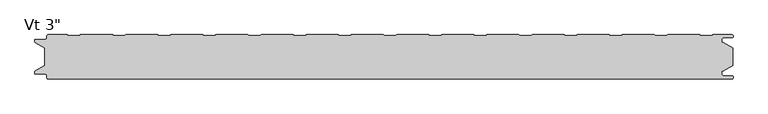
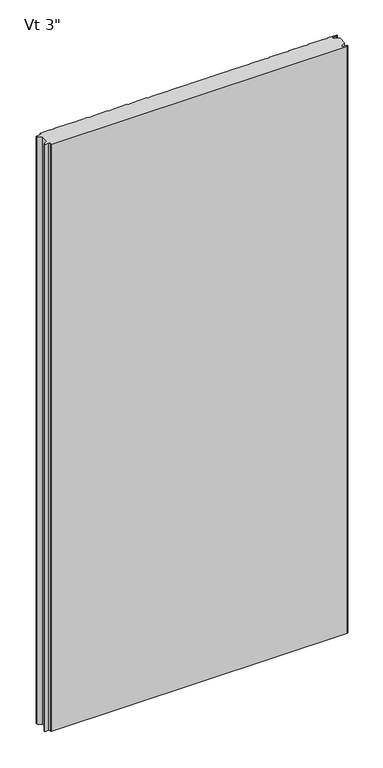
"""IFC4 building model written with IfcOpenShell, lengths in millimetres: plate geometry."""

from ifc_helpers import new_model, si_unit, frame, origin, place, context, project, spatial, polyline, circle_curve, source, transform, mapped, element, save
from ifc_brep_helpers import plane_surface, cylinder_surface, revolved_surface, advanced_brep


def plate_f636fb03(model_context):
    return source(origin(), model_context, "Body", "AdvancedBrep", [
        advanced_brep(
        [(-572.4125501, -73.2227194, 2400.0), (-570.4352761, -75.1999935, 2400.0), (574.5475652, -75.2, 2400.0), (576.5248337, -73.2227315, 2400.0), (576.5248337, -72.1806329, 2400.0), (574.5475652, -70.2033643, 2400.0), (560.3591802, -70.2033643, 2400.0), (557.7713036, -67.6154878, 2400.0), (557.7713036, -63.2950697, 2400.0), (557.1628365, -62.7060762, 2400.0), (554.7857432, -62.7060762, 2400.0), (554.7857432, -61.7066023, 2400.0), (560.2280123, -61.7066023, 2400.0), (576.2625, -52.4490865, 2400.0), (576.2625, -23.7509179, 2400.0), (560.2280123, -14.4934021, 2400.0), (554.7857432, -14.4934021, 2400.0), (554.7857432, -13.4939282, 2400.0), (557.1628365, -13.4939282, 2400.0), (557.7713036, -12.9049347, 2400.0), (557.7713036, -8.5845165, 2400.0), (560.3591802, -5.99664, 2400.0), (574.5475652, -5.99664, 2400.0), (576.5248337, -4.0193715, 2400.0), (576.5248337, -2.9772729, 2400.0), (574.5475652, -1.0000044, 2400.0), (542.3760351, -1.0000044, 2400.0), (541.3035142, -2.1911595, 2400.0), (521.5205195, -2.1911595, 2400.0), (520.4479947, -1.0, 2400.0), (466.7534187, -1.0, 2400.0), (465.6808939, -2.1911595, 2400.0), (445.8978992, -2.1911595, 2400.0), (444.8253744, -1.0, 2400.0), (391.1307985, -1.0, 2400.0), (390.0582736, -2.1911595, 2400.0), (370.275279, -2.1911595, 2400.0), (369.2027541, -1.0, 2400.0), (315.5081782, -1.0, 2400.0), (314.4356534, -2.1911595, 2400.0), (294.6526587, -2.1911595, 2400.0), (293.5801339, -1.0, 2400.0), (239.885558, -1.0, 2400.0), (238.8130331, -2.1911595, 2400.0), (219.0300384, -2.1911595, 2400.0), (217.9575136, -1.0, 2400.0), (164.2629377, -1.0, 2400.0), (163.1904129, -2.1911595, 2400.0), (143.4074182, -2.1911595, 2400.0), (142.3348933, -1.0, 2400.0), (88.6403174, -1.0, 2400.0), (87.5677926, -2.1911595, 2400.0), (67.7847979, -2.1911595, 2400.0), (66.7122731, -1.0, 2400.0), (13.0176972, -1.0, 2400.0), (11.9451723, -2.1911595, 2400.0), (-7.8378224, -2.1911595, 2400.0), (-8.9103472, -1.0, 2400.0), (-62.6049231, -1.0, 2400.0), (-63.6774479, -2.1911595, 2400.0), (-83.4604426, -2.1911595, 2400.0), (-84.5329675, -1.0, 2400.0), (-138.2275434, -1.0, 2400.0), (-139.3000682, -2.1911595, 2400.0), (-159.0830629, -2.1911595, 2400.0), (-160.1555877, -1.0, 2400.0), (-213.8501636, -1.0, 2400.0), (-214.9226885, -2.1911595, 2400.0), (-234.7056831, -2.1911595, 2400.0), (-235.778208, -1.0, 2400.0), (-289.4727839, -1.0, 2400.0), (-290.5453087, -2.1911595, 2400.0), (-310.3283034, -2.1911595, 2400.0), (-311.4008282, -1.0, 2400.0), (-365.0954042, -1.0, 2400.0), (-366.167929, -2.1911595, 2400.0), (-385.9509237, -2.1911595, 2400.0), (-387.0234485, -1.0, 2400.0), (-440.7180244, -1.0, 2400.0), (-441.7905493, -2.1911595, 2400.0), (-461.5735439, -2.1911595, 2400.0), (-462.6460688, -1.0, 2400.0), (-516.3406447, -1.0, 2400.0), (-517.4131695, -2.1911595, 2400.0), (-537.1961642, -2.1911595, 2400.0), (-538.268689, -1.0000109, 2400.0), (-570.4352761, -1.0000109, 2400.0), (-572.4125501, -2.9772849, 2400.0), (-572.4125501, -5.2691749, 2400.0), (-576.3898173, -9.246442, 2400.0), (-591.9862417, -9.246442, 2400.0), (-592.5741186, -9.8343189, 2400.0), (-592.5741186, -12.9058679, 2400.0), (-591.986242, -13.4937446, 2400.0), (-589.6312064, -13.4937446, 2400.0), (-589.6312064, -14.4937446, 2400.0), (-591.9207851, -14.4937446, 2400.0), (-576.2625, -23.7509179, 2400.0), (-576.2625, -52.4490865, 2400.0), (-591.9207851, -61.7062598, 2400.0), (-589.6312064, -61.7062598, 2400.0), (-589.6312064, -62.7062598, 2400.0), (-591.986242, -62.7062598, 2400.0), (-592.5741186, -63.2941365, 2400.0), (-592.5741186, -66.3656854, 2400.0), (-591.9862417, -66.9535623, 2400.0), (-576.3898173, -66.9535623, 2400.0), (-572.4125501, -70.9308295, 2400.0), (-572.4125501, -73.2227194, 0.0), (-572.4125501, -70.9308295, 0.0), (-576.3898173, -66.9535623, 0.0), (-591.9862417, -66.9535623, 0.0), (-592.5741186, -66.3656854, 0.0), (-592.5741186, -63.2941365, 0.0), (-591.986242, -62.7062598, 0.0), (-589.6312064, -62.7062598, 0.0), (-589.6312064, -61.7062598, 0.0), (-591.9207851, -61.7062598, 0.0), (-576.2625, -52.4490865, 0.0), (-576.2625, -23.7509179, 0.0), (-591.9207851, -14.4937446, 0.0), (-589.6312064, -14.4937446, 0.0), (-589.6312064, -13.4937446, 0.0), (-591.986242, -13.4937446, 0.0), (-592.5741186, -12.9058679, 0.0), (-592.5741186, -9.8343189, 0.0), (-591.9862417, -9.246442, 0.0), (-576.3898173, -9.246442, 0.0), (-572.4125501, -5.2691749, 0.0), (-572.4125501, -2.9772849, 0.0), (-570.4352761, -1.0000109, 0.0), (-538.268689, -1.0000109, 0.0), (-537.1961642, -2.1911595, 0.0), (-517.4131695, -2.1911595, 0.0), (-516.3406447, -1.0, 0.0), (-462.6460688, -1.0, 0.0), (-461.5735439, -2.1911595, 0.0), (-441.7905493, -2.1911595, 0.0), (-440.7180244, -1.0, 0.0), (-387.0234485, -1.0, 0.0), (-385.9509237, -2.1911595, 0.0), (-366.167929, -2.1911595, 0.0), (-365.0954042, -1.0, 0.0), (-311.4008282, -1.0, 0.0), (-310.3283034, -2.1911595, 0.0), (-290.5453087, -2.1911595, 0.0), (-289.4727839, -1.0, 0.0), (-235.778208, -1.0, 0.0), (-234.7056831, -2.1911595, 0.0), (-214.9226885, -2.1911595, 0.0), (-213.8501636, -1.0, 0.0), (-160.1555877, -1.0, 0.0), (-159.0830629, -2.1911595, 0.0), (-139.3000682, -2.1911595, 0.0), (-138.2275434, -1.0, 0.0), (-84.5329675, -1.0, 0.0), (-83.4604426, -2.1911595, 0.0), (-63.6774479, -2.1911595, 0.0), (-62.6049231, -1.0, 0.0), (-8.9103472, -1.0, 0.0), (-7.8378224, -2.1911595, 0.0), (11.9451723, -2.1911595, 0.0), (13.0176972, -1.0, 0.0), (66.7122731, -1.0, 0.0), (67.7847979, -2.1911595, 0.0), (87.5677926, -2.1911595, 0.0), (88.6403174, -1.0, 0.0), (142.3348933, -1.0, 0.0), (143.4074182, -2.1911595, 0.0), (163.1904129, -2.1911595, 0.0), (164.2629377, -1.0, 0.0), (217.9575136, -1.0, 0.0), (219.0300384, -2.1911595, 0.0), (238.8130331, -2.1911595, 0.0), (239.885558, -1.0, 0.0), (293.5801339, -1.0, 0.0), (294.6526587, -2.1911595, 0.0), (314.4356534, -2.1911595, 0.0), (315.5081782, -1.0, 0.0), (369.2027541, -1.0, 0.0), (370.275279, -2.1911595, 0.0), (390.0582736, -2.1911595, 0.0), (391.1307985, -1.0, 0.0), (444.8253744, -1.0, 0.0), (445.8978992, -2.1911595, 0.0), (465.6808939, -2.1911595, 0.0), (466.7534187, -1.0, 0.0), (520.4479947, -1.0, 0.0), (521.5205195, -2.1911595, 0.0), (541.3035142, -2.1911595, 0.0), (542.3760351, -1.0000044, 0.0), (574.5475652, -1.0000044, 0.0), (576.5248337, -2.9772729, 0.0), (576.5248337, -4.0193715, 0.0), (574.5475652, -5.99664, 0.0), (560.3591802, -5.99664, 0.0), (557.7713036, -8.5845165, 0.0), (557.7713036, -12.9049347, 0.0), (557.1628365, -13.4939282, 0.0), (554.7857432, -13.4939282, 0.0), (554.7857432, -14.4934021, 0.0), (560.2280123, -14.4934021, 0.0), (576.2625, -23.7509179, 0.0), (576.2625, -52.4490865, 0.0), (560.2280123, -61.7066023, 0.0), (554.7857432, -61.7066023, 0.0), (554.7857432, -62.7060762, 0.0), (557.1628365, -62.7060762, 0.0), (557.7713036, -63.2950697, 0.0), (557.7713036, -67.6154878, 0.0), (560.3591802, -70.2033643, 0.0), (574.5475652, -70.2033643, 0.0), (576.5248337, -72.1806329, 0.0), (576.5248337, -73.2227315, 0.0), (574.5475652, -75.2, 0.0), (-570.4352761, -75.2, 0.0)],
        [
            (0, 1, circle_curve(frame((-570.4352761, -73.2227194, 2400.0), z_axis=(0.0, 0.0, 1.0), x_axis=(-1.0, 0.0, 0.0)), 1.977274)),
            (1, 2),
            (2, 3, circle_curve(frame((574.5475652, -73.2227315, 2400.0), z_axis=(0.0, 0.0, 1.0), x_axis=(-1.0, 0.0, 0.0)), 1.9772685)),
            (3, 4),
            (4, 5, circle_curve(frame((574.5475652, -72.1806329, 2400.0), z_axis=(0.0, 0.0, 1.0), x_axis=(-1.0, 0.0, 0.0)), 1.9772685)),
            (5, 6),
            (6, 7, circle_curve(frame((560.3591802, -67.6154878, 2400.0), z_axis=(0.0, 0.0, -1.0), x_axis=(-1.0, 0.0, 0.0)), 2.5878765)),
            (7, 8),
            (8, 9, circle_curve(frame((557.1819985, -63.2950697, 2400.0), z_axis=(0.0, 0.0, 1.0), x_axis=(-1.0, 0.0, 0.0)), 0.5893051)),
            (9, 10),
            (10, 11),
            (11, 12),
            (12, 13),
            (13, 14),
            (14, 15),
            (15, 16),
            (16, 17),
            (17, 18),
            (18, 19, circle_curve(frame((557.1819985, -12.9049347, 2400.0), z_axis=(0.0, 0.0, 1.0), x_axis=(0.0, 1.0, 0.0)), 0.5893051)),
            (19, 20),
            (20, 21, circle_curve(frame((560.3591802, -8.5845165, 2400.0), z_axis=(0.0, 0.0, -1.0), x_axis=(0.0, 1.0, 0.0)), 2.5878765)),
            (21, 22),
            (22, 23, circle_curve(frame((574.5475652, -4.0193715, 2400.0), z_axis=(0.0, 0.0, 1.0), x_axis=(0.0, 1.0, 0.0)), 1.9772685)),
            (23, 24),
            (24, 25, circle_curve(frame((574.5475652, -2.9772729, 2400.0), z_axis=(0.0, 0.0, 1.0), x_axis=(0.0, 1.0, 0.0)), 1.9772685)),
            (25, 26),
            (26, 27),
            (27, 28),
            (28, 29),
            (29, 30),
            (30, 31),
            (31, 32),
            (32, 33),
            (33, 34),
            (34, 35),
            (35, 36),
            (36, 37),
            (37, 38),
            (38, 39),
            (39, 40),
            (40, 41),
            (41, 42),
            (42, 43),
            (43, 44),
            (44, 45),
            (45, 46),
            (46, 47),
            (47, 48),
            (48, 49),
            (49, 50),
            (50, 51),
            (51, 52),
            (52, 53),
            (53, 54),
            (54, 55),
            (55, 56),
            (56, 57),
            (57, 58),
            (58, 59),
            (59, 60),
            (60, 61),
            (61, 62),
            (62, 63),
            (63, 64),
            (64, 65),
            (65, 66),
            (66, 67),
            (67, 68),
            (68, 69),
            (69, 70),
            (70, 71),
            (71, 72),
            (72, 73),
            (73, 74),
            (74, 75),
            (75, 76),
            (76, 77),
            (77, 78),
            (78, 79),
            (79, 80),
            (80, 81),
            (81, 82),
            (82, 83),
            (83, 84),
            (84, 85),
            (85, 86),
            (86, 87, circle_curve(frame((-570.4352761, -2.9772849, 2400.0), z_axis=(0.0, 0.0, 1.0), x_axis=(0.0, 1.0, 0.0)), 1.977274)),
            (87, 88),
            (88, 89, circle_curve(frame((-576.3898173, -5.2691749, 2400.0), z_axis=(0.0, 0.0, -1.0), x_axis=(0.0, 1.0, 0.0)), 3.9772671)),
            (89, 90),
            (90, 91, circle_curve(frame((-591.9862417, -9.8343189, 2400.0), z_axis=(0.0, 0.0, 1.0), x_axis=(0.0, 1.0, 0.0)), 0.5878769)),
            (91, 92),
            (92, 93, circle_curve(frame((-591.986242, -12.9058679, 2400.0), z_axis=(0.0, 0.0, 1.0), x_axis=(0.0, 1.0, 0.0)), 0.5878766)),
            (93, 94),
            (94, 95),
            (95, 96),
            (96, 97),
            (97, 98),
            (98, 99),
            (99, 100),
            (100, 101),
            (101, 102),
            (102, 103, circle_curve(frame((-591.986242, -63.2941365, 2400.0), z_axis=(0.0, 0.0, 1.0), x_axis=(-1.0, 0.0, 0.0)), 0.5878766)),
            (103, 104),
            (104, 105, circle_curve(frame((-591.9862417, -66.3656854, 2400.0), z_axis=(0.0, 0.0, 1.0), x_axis=(-1.0, 0.0, 0.0)), 0.5878769)),
            (105, 106),
            (106, 107, circle_curve(frame((-576.3898173, -70.9308295, 2400.0), z_axis=(0.0, 0.0, -1.0), x_axis=(-1.0, 0.0, 0.0)), 3.9772671)),
            (107, 0),
            (108, 109),
            (109, 110, circle_curve(frame((-576.3898173, -70.9308295, 0.0), z_axis=(0.0, 0.0, 1.0), x_axis=(-1.0, 0.0, 0.0)), 3.9772671)),
            (110, 111),
            (111, 112, circle_curve(frame((-591.9862417, -66.3656854, 0.0), z_axis=(0.0, 0.0, -1.0), x_axis=(-1.0, 0.0, 0.0)), 0.5878769)),
            (112, 113),
            (113, 114, circle_curve(frame((-591.986242, -63.2941365, 0.0), z_axis=(0.0, 0.0, -1.0), x_axis=(-1.0, 0.0, 0.0)), 0.5878766)),
            (114, 115),
            (115, 116),
            (116, 117),
            (117, 118),
            (118, 119),
            (119, 120),
            (120, 121),
            (121, 122),
            (122, 123),
            (123, 124, circle_curve(frame((-591.986242, -12.9058679, 0.0), z_axis=(0.0, 0.0, -1.0), x_axis=(0.0, 1.0, 0.0)), 0.5878766)),
            (124, 125),
            (125, 126, circle_curve(frame((-591.9862417, -9.8343189, 0.0), z_axis=(0.0, 0.0, -1.0), x_axis=(0.0, 1.0, 0.0)), 0.5878769)),
            (126, 127),
            (127, 128, circle_curve(frame((-576.3898173, -5.2691749, 0.0), z_axis=(0.0, 0.0, 1.0), x_axis=(0.0, 1.0, 0.0)), 3.9772671)),
            (128, 129),
            (129, 130, circle_curve(frame((-570.4352761, -2.9772849, 0.0), z_axis=(0.0, 0.0, -1.0), x_axis=(0.0, 1.0, 0.0)), 1.977274)),
            (130, 131),
            (131, 132),
            (132, 133),
            (133, 134),
            (134, 135),
            (135, 136),
            (136, 137),
            (137, 138),
            (138, 139),
            (139, 140),
            (140, 141),
            (141, 142),
            (142, 143),
            (143, 144),
            (144, 145),
            (145, 146),
            (146, 147),
            (147, 148),
            (148, 149),
            (149, 150),
            (150, 151),
            (151, 152),
            (152, 153),
            (153, 154),
            (154, 155),
            (155, 156),
            (156, 157),
            (157, 158),
            (158, 159),
            (159, 160),
            (160, 161),
            (161, 162),
            (162, 163),
            (163, 164),
            (164, 165),
            (165, 166),
            (166, 167),
            (167, 168),
            (168, 169),
            (169, 170),
            (170, 171),
            (171, 172),
            (172, 173),
            (173, 174),
            (174, 175),
            (175, 176),
            (176, 177),
            (177, 178),
            (178, 179),
            (179, 180),
            (180, 181),
            (181, 182),
            (182, 183),
            (183, 184),
            (184, 185),
            (185, 186),
            (186, 187),
            (187, 188),
            (188, 189),
            (189, 190),
            (190, 191),
            (191, 192, circle_curve(frame((574.5475652, -2.9772729, 0.0), z_axis=(0.0, 0.0, -1.0), x_axis=(0.0, 1.0, 0.0)), 1.9772685)),
            (192, 193),
            (193, 194, circle_curve(frame((574.5475652, -4.0193715, 0.0), z_axis=(0.0, 0.0, -1.0), x_axis=(0.0, 1.0, 0.0)), 1.9772685)),
            (194, 195),
            (195, 196, circle_curve(frame((560.3591802, -8.5845165, 0.0), z_axis=(0.0, 0.0, 1.0), x_axis=(0.0, 1.0, 0.0)), 2.5878765)),
            (196, 197),
            (197, 198, circle_curve(frame((557.1819985, -12.9049347, 0.0), z_axis=(0.0, 0.0, -1.0), x_axis=(0.0, 1.0, 0.0)), 0.5893051)),
            (198, 199),
            (199, 200),
            (200, 201),
            (201, 202),
            (202, 203),
            (203, 204),
            (204, 205),
            (205, 206),
            (206, 207),
            (207, 208, circle_curve(frame((557.1819985, -63.2950697, 0.0), z_axis=(0.0, 0.0, -1.0), x_axis=(-1.0, 0.0, 0.0)), 0.5893051)),
            (208, 209),
            (209, 210, circle_curve(frame((560.3591802, -67.6154878, 0.0), z_axis=(0.0, 0.0, 1.0), x_axis=(-1.0, 0.0, 0.0)), 2.5878765)),
            (210, 211),
            (211, 212, circle_curve(frame((574.5475652, -72.1806329, 0.0), z_axis=(0.0, 0.0, -1.0), x_axis=(-1.0, 0.0, 0.0)), 1.9772685)),
            (212, 213),
            (213, 214, circle_curve(frame((574.5475652, -73.2227315, 0.0), z_axis=(0.0, 0.0, -1.0), x_axis=(-1.0, 0.0, 0.0)), 1.9772685)),
            (214, 215),
            (215, 108, circle_curve(frame((-570.4352761, -73.2227194, 0.0), z_axis=(0.0, 0.0, -1.0), x_axis=(-1.0, 0.0, 0.0)), 1.977274)),
            (97, 119),
            (118, 98),
            (13, 203),
            (202, 14),
            (27, 189),
            (188, 28),
            (26, 190),
            (25, 191),
            (24, 192),
            (23, 193),
            (22, 194),
            (21, 195),
            (20, 196),
            (19, 197),
            (18, 198),
            (17, 199),
            (16, 200),
            (15, 201),
            (96, 120),
            (95, 121),
            (94, 122),
            (93, 123),
            (92, 124),
            (91, 125),
            (90, 126),
            (89, 127),
            (88, 128),
            (87, 129),
            (86, 130),
            (85, 131),
            (84, 132),
            (83, 133),
            (82, 134),
            (81, 135),
            (80, 136),
            (79, 137),
            (78, 138),
            (77, 139),
            (76, 140),
            (75, 141),
            (74, 142),
            (73, 143),
            (72, 144),
            (71, 145),
            (70, 146),
            (69, 147),
            (68, 148),
            (67, 149),
            (66, 150),
            (65, 151),
            (64, 152),
            (63, 153),
            (62, 154),
            (61, 155),
            (60, 156),
            (59, 157),
            (58, 158),
            (57, 159),
            (56, 160),
            (55, 161),
            (54, 162),
            (53, 163),
            (52, 164),
            (51, 165),
            (50, 166),
            (49, 167),
            (48, 168),
            (47, 169),
            (46, 170),
            (45, 171),
            (44, 172),
            (43, 173),
            (42, 174),
            (41, 175),
            (40, 176),
            (39, 177),
            (38, 178),
            (37, 179),
            (36, 180),
            (35, 181),
            (34, 182),
            (33, 183),
            (32, 184),
            (31, 185),
            (30, 186),
            (29, 187),
            (107, 109),
            (108, 0),
            (106, 110),
            (105, 111),
            (104, 112),
            (103, 113),
            (102, 114),
            (101, 115),
            (100, 116),
            (99, 117),
            (12, 204),
            (11, 205),
            (10, 206),
            (9, 207),
            (8, 208),
            (7, 209),
            (6, 210),
            (5, 211),
            (4, 212),
            (3, 213),
            (2, 214),
            (1, 215),
        ],
        [
            plane_surface(frame((0.0, -75.2, 2400.0), z_axis=(0.0, 0.0, 1.0), x_axis=(0.0, -1.0, 0.0))),
            plane_surface(frame((0.0, -75.2, 0.0), z_axis=(0.0, 0.0, -1.0), x_axis=(0.0, -1.0, 0.0))),
            plane_surface(frame((-576.2625, -52.4490865, 2400.0), z_axis=(-1.0, 0.0, 0.0), x_axis=(0.0, 0.0, -1.0))),
            plane_surface(frame((576.2625, -23.7509179, 2400.0), z_axis=(1.0, 0.0, 0.0), x_axis=(0.0, 0.0, -1.0))),
            plane_surface(frame((521.5205195, -2.1911595, 2400.0), z_axis=(0.0, 1.0, 0.0), x_axis=(0.0, 0.0, -1.0))),
            plane_surface(frame((541.3035142, -2.1911595, 2400.0), z_axis=(-0.7431448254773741, 0.6691306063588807, 0.0), x_axis=(0.0, 0.0, -1.0))),
            plane_surface(frame((542.3760351, -1.0000044, 2400.0), z_axis=(0.0, 1.0, 0.0), x_axis=(0.0, 0.0, -1.0))),
            cylinder_surface(frame((574.5475652, -2.9772729, 2400.0), z_axis=(0.0, 0.0, 1.0), x_axis=(0.0, 1.0, 0.0)), 1.9772685),
            plane_surface(frame((576.5248337, -2.9772729, 2400.0), z_axis=(1.0, 0.0, 0.0), x_axis=(0.0, 0.0, -1.0))),
            cylinder_surface(frame((574.5475652, -4.0193715, 2400.0), z_axis=(0.0, 0.0, 1.0), x_axis=(0.0, 1.0, 0.0)), 1.9772685),
            plane_surface(frame((574.5475652, -5.99664, 2400.0), z_axis=(0.0, -1.0, 0.0), x_axis=(0.0, 0.0, -1.0))),
            revolved_surface(polyline([(560.3591802, -5.996639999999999, 0.0), (560.3591802, -5.996639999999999, 2400.0)]), (560.3591802, -8.5845165, 2400.0), (0.0, 0.0, -1.0)),
            plane_surface(frame((557.7713036, -8.5845165, 2400.0), z_axis=(1.0, 0.0, 0.0), x_axis=(0.0, 0.0, -1.0))),
            cylinder_surface(frame((557.1819985, -12.9049347, 2400.0), z_axis=(0.0, 0.0, 1.0), x_axis=(0.0, 1.0, 0.0)), 0.5893051),
            plane_surface(frame((557.1628365, -13.4939282, 2400.0), z_axis=(0.0, -1.0, 0.0), x_axis=(0.0, 0.0, -1.0))),
            plane_surface(frame((554.7857432, -13.4939282, 2400.0), z_axis=(1.0, 0.0, 0.0), x_axis=(0.0, 0.0, -1.0))),
            plane_surface(frame((554.7857432, -14.4934021, 2400.0), z_axis=(0.0, 1.0, 0.0), x_axis=(0.0, 0.0, -1.0))),
            plane_surface(frame((560.2280123, -14.4934021, 2400.0), z_axis=(0.5000000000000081, 0.866025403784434, 0.0), x_axis=(0.0, 0.0, -1.0))),
            plane_surface(frame((-576.2625, -23.7509179, 2400.0), z_axis=(-0.5089147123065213, -0.860816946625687, 0.0), x_axis=(0.0, 0.0, -1.0))),
            plane_surface(frame((-591.9207851, -14.4937446, 2400.0), z_axis=(0.0, 1.0, 0.0), x_axis=(0.0, 0.0, -1.0))),
            plane_surface(frame((-589.6312064, -14.4937446, 2400.0), z_axis=(-1.0, 0.0, 0.0), x_axis=(0.0, 0.0, -1.0))),
            plane_surface(frame((-589.6312064, -13.4937446, 2400.0), z_axis=(0.0, -1.0, 0.0), x_axis=(0.0, 0.0, -1.0))),
            cylinder_surface(frame((-591.986242, -12.9058679, 2400.0), z_axis=(0.0, 0.0, 1.0), x_axis=(0.0, 1.0, 0.0)), 0.5878766),
            plane_surface(frame((-592.5741186, -12.9058679, 2400.0), z_axis=(-1.0, 0.0, 0.0), x_axis=(0.0, 0.0, -1.0))),
            cylinder_surface(frame((-591.9862417, -9.8343189, 2400.0), z_axis=(0.0, 0.0, 1.0), x_axis=(0.0, 1.0, 0.0)), 0.5878769),
            plane_surface(frame((-591.9862417, -9.246442, 2400.0), z_axis=(0.0, 1.0, 0.0), x_axis=(0.0, 0.0, -1.0))),
            revolved_surface(polyline([(-576.3898173, -1.2919078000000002, 0.0), (-576.3898173, -1.2919078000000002, 2400.0)]), (-576.3898173, -5.2691749, 2400.0), (0.0, 0.0, -1.0)),
            plane_surface(frame((-572.4125501, -5.2691749, 2400.0), z_axis=(-1.0, 0.0, 0.0), x_axis=(0.0, 0.0, -1.0))),
            cylinder_surface(frame((-570.4352761, -2.9772849, 2400.0), z_axis=(0.0, 0.0, 1.0), x_axis=(0.0, 1.0, 0.0)), 1.977274),
            plane_surface(frame((-570.4352761, -1.0000109, 2400.0), z_axis=(0.0, 1.0, 0.0), x_axis=(0.0, 0.0, -1.0))),
            plane_surface(frame((-538.268689, -1.0000109, 2400.0), z_axis=(0.7431417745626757, 0.669133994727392, 0.0), x_axis=(0.0, 0.0, -1.0))),
            plane_surface(frame((-537.1961642, -2.1911595, 2400.0), z_axis=(0.0, 1.0, 0.0), x_axis=(0.0, 0.0, -1.0))),
            plane_surface(frame((-517.4131695, -2.1911595, 2400.0), z_axis=(-0.7431448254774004, 0.6691306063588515, 0.0), x_axis=(0.0, 0.0, -1.0))),
            plane_surface(frame((-516.3406447, -1.0, 2400.0), z_axis=(0.0, 1.0, 0.0), x_axis=(0.0, 0.0, -1.0))),
            plane_surface(frame((-462.6460688, -1.0, 2400.0), z_axis=(0.7431448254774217, 0.6691306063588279, 0.0), x_axis=(0.0, 0.0, -1.0))),
            plane_surface(frame((-461.5735439, -2.1911595, 2400.0), z_axis=(0.0, 1.0, 0.0), x_axis=(0.0, 0.0, -1.0))),
            plane_surface(frame((-441.7905493, -2.1911595, 2400.0), z_axis=(-0.7431448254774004, 0.6691306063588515, 0.0), x_axis=(0.0, 0.0, -1.0))),
            plane_surface(frame((-440.7180244, -1.0, 2400.0), z_axis=(0.0, 1.0, 0.0), x_axis=(0.0, 0.0, -1.0))),
            plane_surface(frame((-387.0234485, -1.0, 2400.0), z_axis=(0.7431448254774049, 0.6691306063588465, 0.0), x_axis=(0.0, 0.0, -1.0))),
            plane_surface(frame((-385.9509237, -2.1911595, 2400.0), z_axis=(0.0, 1.0, 0.0), x_axis=(0.0, 0.0, -1.0))),
            plane_surface(frame((-366.167929, -2.1911595, 2400.0), z_axis=(-0.7431448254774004, 0.6691306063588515, 0.0), x_axis=(0.0, 0.0, -1.0))),
            plane_surface(frame((-365.0954042, -1.0, 2400.0), z_axis=(0.0, 1.0, 0.0), x_axis=(0.0, 0.0, -1.0))),
            plane_surface(frame((-311.4008282, -1.0, 2400.0), z_axis=(0.7431448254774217, 0.6691306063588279, 0.0), x_axis=(0.0, 0.0, -1.0))),
            plane_surface(frame((-310.3283034, -2.1911595, 2400.0), z_axis=(0.0, 1.0, 0.0), x_axis=(0.0, 0.0, -1.0))),
            plane_surface(frame((-290.5453087, -2.1911595, 2400.0), z_axis=(-0.7431448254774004, 0.6691306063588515, 0.0), x_axis=(0.0, 0.0, -1.0))),
            plane_surface(frame((-289.4727839, -1.0, 2400.0), z_axis=(0.0, 1.0, 0.0), x_axis=(0.0, 0.0, -1.0))),
            plane_surface(frame((-235.778208, -1.0, 2400.0), z_axis=(0.7431448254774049, 0.6691306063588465, 0.0), x_axis=(0.0, 0.0, -1.0))),
            plane_surface(frame((-234.7056831, -2.1911595, 2400.0), z_axis=(0.0, 1.0, 0.0), x_axis=(0.0, 0.0, -1.0))),
            plane_surface(frame((-214.9226885, -2.1911595, 2400.0), z_axis=(-0.7431448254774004, 0.6691306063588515, 0.0), x_axis=(0.0, 0.0, -1.0))),
            plane_surface(frame((-213.8501636, -1.0, 2400.0), z_axis=(0.0, 1.0, 0.0), x_axis=(0.0, 0.0, -1.0))),
            plane_surface(frame((-160.1555877, -1.0, 2400.0), z_axis=(0.7431448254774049, 0.6691306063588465, 0.0), x_axis=(0.0, 0.0, -1.0))),
            plane_surface(frame((-159.0830629, -2.1911595, 2400.0), z_axis=(0.0, 1.0, 0.0), x_axis=(0.0, 0.0, -1.0))),
            plane_surface(frame((-139.3000682, -2.1911595, 2400.0), z_axis=(-0.7431448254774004, 0.6691306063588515, 0.0), x_axis=(0.0, 0.0, -1.0))),
            plane_surface(frame((-138.2275434, -1.0, 2400.0), z_axis=(0.0, 1.0, 0.0), x_axis=(0.0, 0.0, -1.0))),
            plane_surface(frame((-84.5329675, -1.0, 2400.0), z_axis=(0.7431448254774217, 0.6691306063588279, 0.0), x_axis=(0.0, 0.0, -1.0))),
            plane_surface(frame((-83.4604426, -2.1911595, 2400.0), z_axis=(0.0, 1.0, 0.0), x_axis=(0.0, 0.0, -1.0))),
            plane_surface(frame((-63.6774479, -2.1911595, 2400.0), z_axis=(-0.7431448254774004, 0.6691306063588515, 0.0), x_axis=(0.0, 0.0, -1.0))),
            plane_surface(frame((-62.6049231, -1.0, 2400.0), z_axis=(0.0, 1.0, 0.0), x_axis=(0.0, 0.0, -1.0))),
            plane_surface(frame((-8.9103472, -1.0, 2400.0), z_axis=(0.7431448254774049, 0.6691306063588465, 0.0), x_axis=(0.0, 0.0, -1.0))),
            plane_surface(frame((-7.8378224, -2.1911595, 2400.0), z_axis=(0.0, 1.0, 0.0), x_axis=(0.0, 0.0, -1.0))),
            plane_surface(frame((11.9451723, -2.1911595, 2400.0), z_axis=(-0.7431448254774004, 0.6691306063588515, 0.0), x_axis=(0.0, 0.0, -1.0))),
            plane_surface(frame((13.0176972, -1.0, 2400.0), z_axis=(0.0, 1.0, 0.0), x_axis=(0.0, 0.0, -1.0))),
            plane_surface(frame((66.7122731, -1.0, 2400.0), z_axis=(0.7431448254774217, 0.6691306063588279, 0.0), x_axis=(0.0, 0.0, -1.0))),
            plane_surface(frame((67.7847979, -2.1911595, 2400.0), z_axis=(0.0, 1.0, 0.0), x_axis=(0.0, 0.0, -1.0))),
            plane_surface(frame((87.5677926, -2.1911595, 2400.0), z_axis=(-0.7431448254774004, 0.6691306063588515, 0.0), x_axis=(0.0, 0.0, -1.0))),
            plane_surface(frame((88.6403174, -1.0, 2400.0), z_axis=(0.0, 1.0, 0.0), x_axis=(0.0, 0.0, -1.0))),
            plane_surface(frame((142.3348933, -1.0, 2400.0), z_axis=(0.7431448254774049, 0.6691306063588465, 0.0), x_axis=(0.0, 0.0, -1.0))),
            plane_surface(frame((143.4074182, -2.1911595, 2400.0), z_axis=(0.0, 1.0, 0.0), x_axis=(0.0, 0.0, -1.0))),
            plane_surface(frame((163.1904129, -2.1911595, 2400.0), z_axis=(-0.7431448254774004, 0.6691306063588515, 0.0), x_axis=(0.0, 0.0, -1.0))),
            plane_surface(frame((164.2629377, -1.0, 2400.0), z_axis=(0.0, 1.0, 0.0), x_axis=(0.0, 0.0, -1.0))),
            plane_surface(frame((217.9575136, -1.0, 2400.0), z_axis=(0.7431448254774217, 0.6691306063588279, 0.0), x_axis=(0.0, 0.0, -1.0))),
            plane_surface(frame((219.0300384, -2.1911595, 2400.0), z_axis=(0.0, 1.0, 0.0), x_axis=(0.0, 0.0, -1.0))),
            plane_surface(frame((238.8130331, -2.1911595, 2400.0), z_axis=(-0.7431448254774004, 0.6691306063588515, 0.0), x_axis=(0.0, 0.0, -1.0))),
            plane_surface(frame((239.885558, -1.0, 2400.0), z_axis=(0.0, 1.0, 0.0), x_axis=(0.0, 0.0, -1.0))),
            plane_surface(frame((293.5801339, -1.0, 2400.0), z_axis=(0.7431448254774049, 0.6691306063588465, 0.0), x_axis=(0.0, 0.0, -1.0))),
            plane_surface(frame((294.6526587, -2.1911595, 2400.0), z_axis=(0.0, 1.0, 0.0), x_axis=(0.0, 0.0, -1.0))),
            plane_surface(frame((314.4356534, -2.1911595, 2400.0), z_axis=(-0.7431448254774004, 0.6691306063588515, 0.0), x_axis=(0.0, 0.0, -1.0))),
            plane_surface(frame((315.5081782, -1.0, 2400.0), z_axis=(0.0, 1.0, 0.0), x_axis=(0.0, 0.0, -1.0))),
            plane_surface(frame((369.2027541, -1.0, 2400.0), z_axis=(0.7431448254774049, 0.6691306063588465, 0.0), x_axis=(0.0, 0.0, -1.0))),
            plane_surface(frame((370.275279, -2.1911595, 2400.0), z_axis=(0.0, 1.0, 0.0), x_axis=(0.0, 0.0, -1.0))),
            plane_surface(frame((390.0582736, -2.1911595, 2400.0), z_axis=(-0.7431448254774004, 0.6691306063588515, 0.0), x_axis=(0.0, 0.0, -1.0))),
            plane_surface(frame((391.1307985, -1.0, 2400.0), z_axis=(0.0, 1.0, 0.0), x_axis=(0.0, 0.0, -1.0))),
            plane_surface(frame((444.8253744, -1.0, 2400.0), z_axis=(0.7431448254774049, 0.6691306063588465, 0.0), x_axis=(0.0, 0.0, -1.0))),
            plane_surface(frame((445.8978992, -2.1911595, 2400.0), z_axis=(0.0, 1.0, 0.0), x_axis=(0.0, 0.0, -1.0))),
            plane_surface(frame((465.6808939, -2.1911595, 2400.0), z_axis=(-0.7431448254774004, 0.6691306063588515, 0.0), x_axis=(0.0, 0.0, -1.0))),
            plane_surface(frame((466.7534187, -1.0, 2400.0), z_axis=(0.0, 1.0, 0.0), x_axis=(0.0, 0.0, -1.0))),
            plane_surface(frame((520.4479947, -1.0, 2400.0), z_axis=(0.7431448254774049, 0.6691306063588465, 0.0), x_axis=(0.0, 0.0, -1.0))),
            plane_surface(frame((-572.4125501, -73.2227194, 2400.0), z_axis=(-1.0, 0.0, 0.0), x_axis=(0.0, 0.0, -1.0))),
            revolved_surface(polyline([(-580.3670844, -70.9308295, 0.0), (-580.3670844, -70.9308295, 2400.0)]), (-576.3898173, -70.9308295, 2400.0), (0.0, 0.0, -1.0)),
            plane_surface(frame((-576.3898173, -66.9535623, 2400.0), z_axis=(0.0, -1.0, 0.0), x_axis=(0.0, 0.0, -1.0))),
            cylinder_surface(frame((-591.9862417, -66.3656854, 2400.0), z_axis=(0.0, 0.0, 1.0), x_axis=(-1.0, 0.0, 0.0)), 0.5878769),
            plane_surface(frame((-592.5741186, -66.3656854, 2400.0), z_axis=(-1.0, 0.0, 0.0), x_axis=(0.0, 0.0, -1.0))),
            cylinder_surface(frame((-591.986242, -63.2941365, 2400.0), z_axis=(0.0, 0.0, 1.0), x_axis=(-1.0, 0.0, 0.0)), 0.5878766),
            plane_surface(frame((-591.986242, -62.7062598, 2400.0), z_axis=(0.0, 1.0, 0.0), x_axis=(0.0, 0.0, -1.0))),
            plane_surface(frame((-589.6312064, -62.7062598, 2400.0), z_axis=(-1.0, 0.0, 0.0), x_axis=(0.0, 0.0, -1.0))),
            plane_surface(frame((-589.6312064, -61.7062598, 2400.0), z_axis=(0.0, -1.0, 0.0), x_axis=(0.0, 0.0, -1.0))),
            plane_surface(frame((-591.9207851, -61.7062598, 2400.0), z_axis=(-0.5089147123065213, 0.860816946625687, 0.0), x_axis=(0.0, 0.0, -1.0))),
            plane_surface(frame((576.2625, -52.4490865, 2400.0), z_axis=(0.500000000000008, -0.866025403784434, 0.0), x_axis=(0.0, 0.0, -1.0))),
            plane_surface(frame((560.2280123, -61.7066023, 2400.0), z_axis=(0.0, -1.0, 0.0), x_axis=(0.0, 0.0, -1.0))),
            plane_surface(frame((554.7857432, -61.7066023, 2400.0), z_axis=(1.0, 0.0, 0.0), x_axis=(0.0, 0.0, -1.0))),
            plane_surface(frame((554.7857432, -62.7060762, 2400.0), z_axis=(0.0, 1.0, 0.0), x_axis=(0.0, 0.0, -1.0))),
            cylinder_surface(frame((557.1819985, -63.2950697, 2400.0), z_axis=(0.0, 0.0, 1.0), x_axis=(-1.0, 0.0, 0.0)), 0.5893051),
            plane_surface(frame((557.7713036, -63.2950697, 2400.0), z_axis=(1.0, 0.0, 0.0), x_axis=(0.0, 0.0, -1.0))),
            revolved_surface(polyline([(557.7713037, -67.6154878, 0.0), (557.7713037, -67.6154878, 2400.0)]), (560.3591802, -67.6154878, 2400.0), (0.0, 0.0, -1.0)),
            plane_surface(frame((560.3591802, -70.2033643, 2400.0), z_axis=(0.0, 1.0, 0.0), x_axis=(0.0, 0.0, -1.0))),
            cylinder_surface(frame((574.5475652, -72.1806329, 2400.0), z_axis=(0.0, 0.0, 1.0), x_axis=(-1.0, 0.0, 0.0)), 1.9772685),
            plane_surface(frame((576.5248337, -72.1806329, 2400.0), z_axis=(1.0, 0.0, 0.0), x_axis=(0.0, 0.0, -1.0))),
            cylinder_surface(frame((574.5475652, -73.2227315, 2400.0), z_axis=(0.0, 0.0, 1.0), x_axis=(-1.0, 0.0, 0.0)), 1.9772685),
            plane_surface(frame((574.5475652, -75.2, 2400.0), z_axis=(0.0, -1.0, 0.0), x_axis=(0.0, 0.0, -1.0))),
            cylinder_surface(frame((-570.4352761, -73.2227194, 2400.0), z_axis=(0.0, 0.0, 1.0), x_axis=(-1.0, 0.0, 0.0)), 1.977274),
        ],
        [
            (0, [[1, 2, 3, 4, 5, 6, 7, 8, 9, 10, 11, 12, 13, 14, 15, 16, 17, 18, 19, 20, 21, 22, 23, 24, 25, 26, 27, 28, 29, 30, 31, 32, 33, 34, 35, 36, 37, 38, 39, 40, 41, 42, 43, 44, 45, 46, 47, 48, 49, 50, 51, 52, 53, 54, 55, 56, 57, 58, 59, 60, 61, 62, 63, 64, 65, 66, 67, 68, 69, 70, 71, 72, 73, 74, 75, 76, 77, 78, 79, 80, 81, 82, 83, 84, 85, 86, 87, 88, 89, 90, 91, 92, 93, 94, 95, 96, 97, 98, 99, 100, 101, 102, 103, 104, 105, 106, 107, 108]]),
            (1, [[109, 110, 111, 112, 113, 114, 115, 116, 117, 118, 119, 120, 121, 122, 123, 124, 125, 126, 127, 128, 129, 130, 131, 132, 133, 134, 135, 136, 137, 138, 139, 140, 141, 142, 143, 144, 145, 146, 147, 148, 149, 150, 151, 152, 153, 154, 155, 156, 157, 158, 159, 160, 161, 162, 163, 164, 165, 166, 167, 168, 169, 170, 171, 172, 173, 174, 175, 176, 177, 178, 179, 180, 181, 182, 183, 184, 185, 186, 187, 188, 189, 190, 191, 192, 193, 194, 195, 196, 197, 198, 199, 200, 201, 202, 203, 204, 205, 206, 207, 208, 209, 210, 211, 212, 213, 214, 215, 216]]),
            (2, [[217, -119, 218, -98]]),
            (3, [[219, -203, 220, -14]]),
            (4, [[221, -189, 222, -28]]),
            (5, [[223, -190, -221, -27]]),
            (6, [[224, -191, -223, -26]]),
            (7, [[225, -192, -224, -25]]),
            (8, [[226, -193, -225, -24]]),
            (9, [[227, -194, -226, -23]]),
            (10, [[228, -195, -227, -22]]),
            (11, [[229, -196, -228, -21]]),
            (12, [[230, -197, -229, -20]]),
            (13, [[231, -198, -230, -19]]),
            (14, [[232, -199, -231, -18]]),
            (15, [[233, -200, -232, -17]]),
            (16, [[234, -201, -233, -16]]),
            (17, [[-220, -202, -234, -15]]),
            (18, [[235, -120, -217, -97]]),
            (19, [[236, -121, -235, -96]]),
            (20, [[237, -122, -236, -95]]),
            (21, [[238, -123, -237, -94]]),
            (22, [[239, -124, -238, -93]]),
            (23, [[240, -125, -239, -92]]),
            (24, [[241, -126, -240, -91]]),
            (25, [[242, -127, -241, -90]]),
            (26, [[243, -128, -242, -89]]),
            (27, [[244, -129, -243, -88]]),
            (28, [[245, -130, -244, -87]]),
            (29, [[246, -131, -245, -86]]),
            (30, [[247, -132, -246, -85]]),
            (31, [[248, -133, -247, -84]]),
            (32, [[249, -134, -248, -83]]),
            (33, [[250, -135, -249, -82]]),
            (34, [[251, -136, -250, -81]]),
            (35, [[252, -137, -251, -80]]),
            (36, [[253, -138, -252, -79]]),
            (37, [[254, -139, -253, -78]]),
            (38, [[255, -140, -254, -77]]),
            (39, [[256, -141, -255, -76]]),
            (40, [[257, -142, -256, -75]]),
            (41, [[258, -143, -257, -74]]),
            (42, [[259, -144, -258, -73]]),
            (43, [[260, -145, -259, -72]]),
            (44, [[261, -146, -260, -71]]),
            (45, [[262, -147, -261, -70]]),
            (46, [[263, -148, -262, -69]]),
            (47, [[264, -149, -263, -68]]),
            (48, [[265, -150, -264, -67]]),
            (49, [[266, -151, -265, -66]]),
            (50, [[267, -152, -266, -65]]),
            (51, [[268, -153, -267, -64]]),
            (52, [[269, -154, -268, -63]]),
            (53, [[270, -155, -269, -62]]),
            (54, [[271, -156, -270, -61]]),
            (55, [[272, -157, -271, -60]]),
            (56, [[273, -158, -272, -59]]),
            (57, [[274, -159, -273, -58]]),
            (58, [[275, -160, -274, -57]]),
            (59, [[276, -161, -275, -56]]),
            (60, [[277, -162, -276, -55]]),
            (61, [[278, -163, -277, -54]]),
            (62, [[279, -164, -278, -53]]),
            (63, [[280, -165, -279, -52]]),
            (64, [[281, -166, -280, -51]]),
            (65, [[282, -167, -281, -50]]),
            (66, [[283, -168, -282, -49]]),
            (67, [[284, -169, -283, -48]]),
            (68, [[285, -170, -284, -47]]),
            (69, [[286, -171, -285, -46]]),
            (70, [[287, -172, -286, -45]]),
            (71, [[288, -173, -287, -44]]),
            (72, [[289, -174, -288, -43]]),
            (73, [[290, -175, -289, -42]]),
            (74, [[291, -176, -290, -41]]),
            (75, [[292, -177, -291, -40]]),
            (76, [[293, -178, -292, -39]]),
            (77, [[294, -179, -293, -38]]),
            (78, [[295, -180, -294, -37]]),
            (79, [[296, -181, -295, -36]]),
            (80, [[297, -182, -296, -35]]),
            (81, [[298, -183, -297, -34]]),
            (82, [[299, -184, -298, -33]]),
            (83, [[300, -185, -299, -32]]),
            (84, [[301, -186, -300, -31]]),
            (85, [[302, -187, -301, -30]]),
            (86, [[-222, -188, -302, -29]]),
            (87, [[303, -109, 304, -108]]),
            (88, [[305, -110, -303, -107]]),
            (89, [[306, -111, -305, -106]]),
            (90, [[307, -112, -306, -105]]),
            (91, [[308, -113, -307, -104]]),
            (92, [[309, -114, -308, -103]]),
            (93, [[310, -115, -309, -102]]),
            (94, [[311, -116, -310, -101]]),
            (95, [[312, -117, -311, -100]]),
            (96, [[-218, -118, -312, -99]]),
            (97, [[313, -204, -219, -13]]),
            (98, [[314, -205, -313, -12]]),
            (99, [[315, -206, -314, -11]]),
            (100, [[316, -207, -315, -10]]),
            (101, [[317, -208, -316, -9]]),
            (102, [[318, -209, -317, -8]]),
            (103, [[319, -210, -318, -7]]),
            (104, [[320, -211, -319, -6]]),
            (105, [[321, -212, -320, -5]]),
            (106, [[322, -213, -321, -4]]),
            (107, [[323, -214, -322, -3]]),
            (108, [[324, -215, -323, -2]]),
            (109, [[-304, -216, -324, -1]]),
        ],
    ),
    ])


if __name__ == "__main__":
    model = new_model("IFC4")
    model_context = context("Model", 3, world=origin())
    ifc_project = project(units=[si_unit("LENGTHUNIT", "METRE", prefix="MILLI")], contexts=[model_context])
    site = spatial("IfcSite", under=ifc_project)
    building = spatial("IfcBuilding", under=site)
    placement = place(None, origin())
    plate_shape = plate_f636fb03(model_context)
    element("IfcPlate", 1, ObjectType="KIP-SLI-FLI-R19-CP-Vt-FL_SL : Vt 3\"", at=placement, inside=building, context=model_context, shape_type="MappedRepresentation", body=[
        mapped(plate_shape, transform((0.0, 0.0, 0.0), x_axis=(1.0, 0.0, 0.0), y_axis=(0.0, 1.0, 0.0), z_axis=(0.0, 0.0, 1.0))),
    ])
    save(model, "model.ifc")
